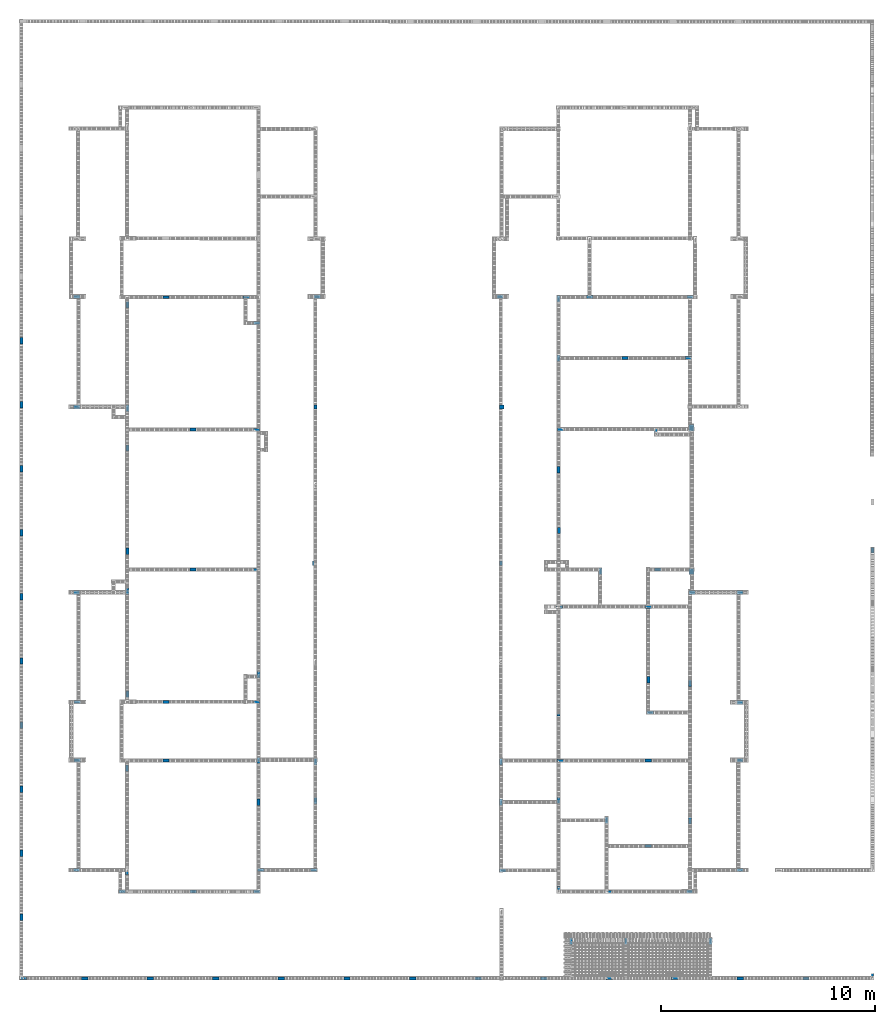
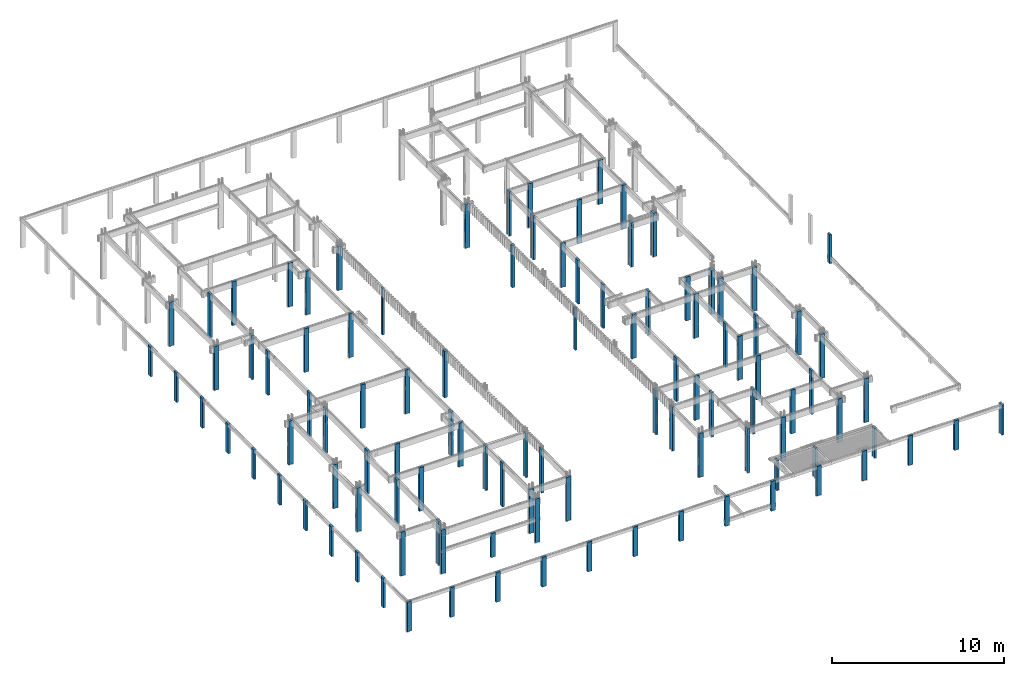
# One storey, part 1 of 236: 105 columns.
"""IFC4 building model written with IfcOpenShell, lengths in centimetres."""

from ifc_helpers import new_model, si_unit, derived_unit, frame, origin_with_axes, origin_2d_with_axis, place, context, project, spatial, rectangle, extrude, material, element, save


model = new_model("IFC4")

# Units and contexts
model_context = context("Model", 3, precision=1e-05, world=origin_with_axes(), identifier="Body")
ifc_project = project(units=[si_unit("LENGTHUNIT", "METRE", prefix="CENTI"), si_unit("VOLUMEUNIT", "CUBIC_METRE"), si_unit("AREAUNIT", "SQUARE_METRE"), si_unit("POWERUNIT", "WATT"), si_unit("LUMINOUSFLUXUNIT", "LUMEN"), si_unit("ELECTRICCURRENTUNIT", "AMPERE"), si_unit("PRESSUREUNIT", "PASCAL", prefix="KILO"), si_unit("MASSUNIT", "GRAM", prefix="KILO"), si_unit("PLANEANGLEUNIT", "RADIAN"), derived_unit("VOLUMETRICFLOWRATEUNIT", [(si_unit("LENGTHUNIT", "METRE"), 3), (si_unit("TIMEUNIT", "SECOND"), -1)])], contexts=[model_context])

# Site, building, storey
site_placement = place(None, frame((-4000.0, 0.0, 0.0), z_axis=(0.0, 0.0, 1.0), x_axis=(1.0, 0.0, 0.0)))
site = spatial("IfcSite", under=ifc_project, at=site_placement, Name="PADRÃO")
building_placement = place(site_placement, frame((0.0, 0.0, -14.0)))
building = spatial("IfcBuilding", under=site, at=building_placement, Name="CRECHE PRÉ-ESCOLA TIPO 2")
placement_1 = place(building_placement, origin_with_axes())
placement_2 = place(placement_1, frame((0.0, 0.0, 30.0), z_axis=(0.0, 0.0, 1.0), x_axis=(1.0, 0.0, 0.0)))
storey_placement = place(placement_2, frame((0.0, 0.0, 310.0), z_axis=(0.0, 0.0, 1.0), x_axis=(1.0, 0.0, 0.0)))
storey = spatial("IfcBuildingStorey", under=building, at=storey_placement, Name="TERREO", CompositionType="ELEMENT", Elevation=326.0)

# Columns
ifc_material = material(Name="Concreto")
column_1_placement = place(storey_placement, frame((8.5, 1494.5, -100.0), z_axis=(0.0, 0.0, 1.0), x_axis=(1.0, 0.0, 0.0)))
element("IfcColumn", 1, at=column_1_placement, inside=storey, material=ifc_material, Name="P101", context=model_context, shape_type="SolidModel", body=[
    extrude(rectangle(XDim=14.0, YDim=30.0, at=origin_2d_with_axis()), origin_with_axes(), (0.0, 0.0, -1.0), 210.0),
])
for number, where, z_axis, x_axis, name in (
    (2, (1118.72, 1430.5, 0.0), (0.0, 0.0, 1.0), (1.0, 0.0, 0.0), "P102"),
    (3, (2943.24, 1406.51, 0.0), (0.0, 0.0, 1.0), (1.0, 0.0, 0.0), "P104"),
):
    element("IfcColumn", number, at=place(storey_placement, frame(where, z_axis=z_axis, x_axis=x_axis)), inside=storey, material=ifc_material, Name=name, context=model_context, shape_type="SolidModel", body=[
        extrude(rectangle(XDim=14.0, YDim=30.0, at=origin_2d_with_axis()), origin_with_axes(), (0.0, 0.0, -1.0), 310.0),
    ])
column_2_placement = place(storey_placement, frame((3138.5, 1389.52, 0.0), z_axis=(0.0, 0.0, 1.0), x_axis=(1.0, 0.0, 0.0)))
element("IfcColumn", 4, at=column_2_placement, inside=storey, material=ifc_material, Name="P105", context=model_context, shape_type="SolidModel", body=[
    extrude(rectangle(XDim=14.0, YDim=30.0, at=origin_2d_with_axis()), frame((0.0, 0.0, 0.0), z_axis=(0.0, 0.0, 1.0), x_axis=(-1.0, 0.0, 0.0)), (0.0, 0.0, -1.0), 310.0),
])
column_3_placement = place(storey_placement, frame((269.5, 1301.5, 0.0), z_axis=(0.0, 0.0, 1.0), x_axis=(1.0, 0.0, 0.0)))
element("IfcColumn", 5, at=column_3_placement, inside=storey, material=ifc_material, Name="P106", context=model_context, shape_type="SolidModel", body=[
    extrude(rectangle(XDim=14.0, YDim=30.0, at=origin_2d_with_axis()), frame((0.0, 0.0, 0.0), z_axis=(0.0, 0.0, 1.0), x_axis=(0.0, -1.0, 0.0)), (0.0, 0.0, -1.0), 310.0),
])
column_4_placement = place(storey_placement, frame((503.69, 1338.51, 0.0), z_axis=(0.0, 0.0, 1.0), x_axis=(1.0, 0.0, 0.0)))
element("IfcColumn", 6, at=column_4_placement, inside=storey, material=ifc_material, Name="P107", context=model_context, shape_type="SolidModel", body=[
    extrude(rectangle(XDim=14.0, YDim=30.0, at=origin_2d_with_axis()), origin_with_axes(), (0.0, 0.0, -1.0), 310.0),
])
column_5_placement = place(storey_placement, frame((685.0, 1302.5, 0.0), z_axis=(0.0, 0.0, 1.0), x_axis=(1.0, 0.0, 0.0)))
element("IfcColumn", 7, at=column_5_placement, inside=storey, material=ifc_material, Name="P108", context=model_context, shape_type="SolidModel", body=[
    extrude(rectangle(XDim=14.0, YDim=30.0, at=origin_2d_with_axis()), frame((0.0, 0.0, 0.0), z_axis=(0.0, 0.0, 1.0), x_axis=(0.0, -1.0, 0.0)), (0.0, 0.0, -1.0), 310.0),
])
column_6_placement = place(storey_placement, frame((1109.72, 1302.5, 0.0), z_axis=(0.0, 0.0, 1.0), x_axis=(1.0, 0.0, 0.0)))
element("IfcColumn", 8, at=column_6_placement, inside=storey, material=ifc_material, Name="P109", context=model_context, shape_type="SolidModel", body=[
    extrude(rectangle(XDim=14.0, YDim=30.0, at=origin_2d_with_axis()), frame((0.0, 0.0, 0.0), z_axis=(0.0, 0.0, 1.0), x_axis=(0.0, 1.0, 0.0)), (0.0, 0.0, -1.0), 310.0),
])
column_7_placement = place(storey_placement, frame((2523.5, 1252.08, 0.0), z_axis=(0.0, 0.0, 1.0), x_axis=(1.0, 0.0, 0.0)))
element("IfcColumn", 9, at=column_7_placement, inside=storey, material=ifc_material, Name="P110", context=model_context, shape_type="SolidModel", body=[
    extrude(rectangle(XDim=14.0, YDim=30.0, at=origin_2d_with_axis()), origin_with_axes(), (0.0, 0.0, -1.0), 310.0),
])
column_8_placement = place(storey_placement, frame((2951.24, 1252.52, 0.0), z_axis=(0.0, 0.0, 1.0), x_axis=(1.0, 0.0, 0.0)))
element("IfcColumn", 10, at=column_8_placement, inside=storey, material=ifc_material, Name="P112", context=model_context, shape_type="SolidModel", body=[
    extrude(rectangle(XDim=14.0, YDim=30.0, at=origin_2d_with_axis()), frame((0.0, 0.0, 0.0), z_axis=(0.0, 0.0, 1.0), x_axis=(0.0, 1.0, 0.0)), (0.0, 0.0, -1.0), 310.0),
])
column_9_placement = place(storey_placement, frame((3372.5, 1300.09, 0.0), z_axis=(0.0, 0.0, 1.0), x_axis=(1.0, 0.0, 0.0)))
element("IfcColumn", 11, at=column_9_placement, inside=storey, material=ifc_material, Name="P113", context=model_context, shape_type="SolidModel", body=[
    extrude(rectangle(XDim=17.0, YDim=30.0, at=origin_2d_with_axis()), frame((0.0, 0.0, 0.0), z_axis=(0.0, 0.0, 1.0), x_axis=(0.0, -1.0, 0.0)), (0.0, 0.0, -1.0), 310.0),
])
column_10_placement = place(storey_placement, frame((8.5, 1194.5, -100.0), z_axis=(0.0, 0.0, 1.0), x_axis=(1.0, 0.0, 0.0)))
element("IfcColumn", 12, at=column_10_placement, inside=storey, material=ifc_material, Name="P114", context=model_context, shape_type="SolidModel", body=[
    extrude(rectangle(XDim=14.0, YDim=30.0, at=origin_2d_with_axis()), origin_with_axes(), (0.0, 0.0, -1.0), 210.0),
])
column_11_placement = place(storey_placement, frame((269.5, 1030.5, 0.0), z_axis=(0.0, 0.0, 1.0), x_axis=(1.0, 0.0, 0.0)))
element("IfcColumn", 13, at=column_11_placement, inside=storey, material=ifc_material, Name="P116", context=model_context, shape_type="SolidModel", body=[
    extrude(rectangle(XDim=17.0, YDim=30.0, at=origin_2d_with_axis()), frame((0.0, 0.0, 0.0), z_axis=(0.0, 0.0, 1.0), x_axis=(0.0, -1.0, 0.0)), (0.0, 0.0, -1.0), 310.0),
])
column_12_placement = place(storey_placement, frame((503.57, 991.51, 0.0), z_axis=(0.0, 0.0, 1.0), x_axis=(1.0, 0.0, 0.0)))
element("IfcColumn", 14, at=column_12_placement, inside=storey, material=ifc_material, Name="P117", context=model_context, shape_type="SolidModel", body=[
    extrude(rectangle(XDim=14.0, YDim=30.0, at=origin_2d_with_axis()), origin_with_axes(), (0.0, 0.0, -1.0), 310.0),
])
column_13_placement = place(storey_placement, frame((685.0, 1027.51, 0.0), z_axis=(0.0, 0.0, 1.0), x_axis=(1.0, 0.0, 0.0)))
element("IfcColumn", 15, at=column_13_placement, inside=storey, material=ifc_material, Name="P118", context=model_context, shape_type="SolidModel", body=[
    extrude(rectangle(XDim=14.0, YDim=30.0, at=origin_2d_with_axis()), frame((0.0, 0.0, 0.0), z_axis=(0.0, 0.0, 1.0), x_axis=(0.0, -1.0, 0.0)), (0.0, 0.0, -1.0), 310.0),
])
column_14_placement = place(storey_placement, frame((1118.72, 1028.5, 0.0), z_axis=(0.0, 0.0, 1.0), x_axis=(1.0, 0.0, 0.0)))
element("IfcColumn", 16, at=column_14_placement, inside=storey, material=ifc_material, Name="P119", context=model_context, shape_type="SolidModel", body=[
    extrude(rectangle(XDim=14.0, YDim=30.0, at=origin_2d_with_axis()), origin_with_axes(), (0.0, 0.0, -1.0), 310.0),
])
column_15_placement = place(storey_placement, frame((1384.84, 1023.51, 0.0), z_axis=(0.0, 0.0, 1.0), x_axis=(1.0, 0.0, 0.0)))
element("IfcColumn", 17, at=column_15_placement, inside=storey, material=ifc_material, Name="P120", context=model_context, shape_type="SolidModel", body=[
    extrude(rectangle(XDim=14.0, YDim=30.0, at=origin_2d_with_axis()), frame((0.0, 0.0, 0.0), z_axis=(0.0, 0.0, 1.0), x_axis=(-1.0, 0.0, 0.0)), (0.0, 0.0, -1.0), 310.0),
])
column_16_placement = place(storey_placement, frame((2254.49, 1023.51, 0.0), z_axis=(0.0, 0.0, 1.0), x_axis=(1.0, 0.0, 0.0)))
element("IfcColumn", 18, at=column_16_placement, inside=storey, material=ifc_material, Name="P121", context=model_context, shape_type="SolidModel", body=[
    extrude(rectangle(XDim=14.0, YDim=30.0, at=origin_2d_with_axis()), origin_with_axes(), (0.0, 0.0, -1.0), 310.0),
])
for number, where, z_axis, x_axis, name in (
    (19, (2531.5, 1027.52, 0.0), (0.0, 0.0, 1.0), (1.0, 0.0, 0.0), "P122"),
    (20, (2943.24, 1027.52, 0.0), (0.0, 0.0, 1.0), (1.0, 0.0, 0.0), "P123"),
):
    element("IfcColumn", number, at=place(storey_placement, frame(where, z_axis=z_axis, x_axis=x_axis)), inside=storey, material=ifc_material, Name=name, context=model_context, shape_type="SolidModel", body=[
        extrude(rectangle(XDim=14.0, YDim=30.0, at=origin_2d_with_axis()), frame((0.0, 0.0, 0.0), z_axis=(0.0, 0.0, 1.0), x_axis=(0.0, 1.0, 0.0)), (0.0, 0.0, -1.0), 310.0),
    ])
column_17_placement = place(storey_placement, frame((3372.5, 1030.08, 0.0), z_axis=(0.0, 0.0, 1.0), x_axis=(1.0, 0.0, 0.0)))
element("IfcColumn", 21, at=column_17_placement, inside=storey, material=ifc_material, Name="P124", context=model_context, shape_type="SolidModel", body=[
    extrude(rectangle(XDim=17.0, YDim=30.0, at=origin_2d_with_axis()), frame((0.0, 0.0, 0.0), z_axis=(0.0, 0.0, 1.0), x_axis=(0.0, -1.0, 0.0)), (0.0, 0.0, -1.0), 310.0),
])
column_18_placement = place(storey_placement, frame((8.5, 894.5, -100.0), z_axis=(0.0, 0.0, 1.0), x_axis=(1.0, 0.0, 0.0)))
element("IfcColumn", 22, at=column_18_placement, inside=storey, material=ifc_material, Name="P125", context=model_context, shape_type="SolidModel", body=[
    extrude(rectangle(XDim=14.0, YDim=30.0, at=origin_2d_with_axis()), origin_with_axes(), (0.0, 0.0, -1.0), 210.0),
])
for number, where, z_axis, x_axis, name in (
    (23, (1118.72, 833.5, 0.0), (0.0, 0.0, 1.0), (1.0, 0.0, 0.0), "P126"),
    (24, (1384.84, 841.1, 0.0), (0.0, 0.0, 1.0), (1.0, 0.0, 0.0), "P127"),
    (25, (2254.49, 832.52, 0.0), (0.0, 0.0, 1.0), (1.0, 0.0, 0.0), "P128"),
    (26, (2523.5, 841.52, 0.0), (0.0, 0.0, 1.0), (1.0, 0.0, 0.0), "P129"),
    (27, (2747.52, 749.08, 0.0), (0.0, 0.0, 1.0), (1.0, 0.0, 0.0), "P131"),
    (28, (3138.5, 746.58, 0.0), (0.0, 0.0, 1.0), (1.0, 0.0, 0.0), "P132"),
):
    element("IfcColumn", number, at=place(storey_placement, frame(where, z_axis=z_axis, x_axis=x_axis)), inside=storey, material=ifc_material, Name=name, context=model_context, shape_type="SolidModel", body=[
        extrude(rectangle(XDim=14.0, YDim=30.0, at=origin_2d_with_axis()), origin_with_axes(), (0.0, 0.0, -1.0), 310.0),
    ])
column_19_placement = place(storey_placement, frame((8.5, 594.5, -100.0), z_axis=(0.0, 0.0, 1.0), x_axis=(1.0, 0.0, 0.0)))
element("IfcColumn", 29, at=column_19_placement, inside=storey, material=ifc_material, Name="P133", context=model_context, shape_type="SolidModel", body=[
    extrude(rectangle(XDim=14.0, YDim=30.0, at=origin_2d_with_axis()), origin_with_axes(), (0.0, 0.0, -1.0), 210.0),
])
column_20_placement = place(storey_placement, frame((2943.45, 627.58, 0.0), z_axis=(0.0, 0.0, 1.0), x_axis=(1.0, 0.0, 0.0)))
element("IfcColumn", 30, at=column_20_placement, inside=storey, material=ifc_material, Name="P134", context=model_context, shape_type="SolidModel", body=[
    extrude(rectangle(XDim=14.0, YDim=30.0, at=origin_2d_with_axis()), frame((0.0, 0.0, 0.0), z_axis=(0.0, 0.0, 1.0), x_axis=(0.0, 1.0, 0.0)), (0.0, 0.0, -1.0), 310.0),
])
column_21_placement = place(storey_placement, frame((266.0, 515.0, 0.0), z_axis=(0.0, 0.0, 1.0), x_axis=(1.0, 0.0, 0.0)))
element("IfcColumn", 31, at=column_21_placement, inside=storey, material=ifc_material, Name="P135", context=model_context, shape_type="SolidModel", body=[
    extrude(rectangle(XDim=14.0, YDim=30.0, at=origin_2d_with_axis()), frame((0.0, 0.0, 0.0), z_axis=(0.0, 0.0, 1.0), x_axis=(0.0, -1.0, 0.0)), (0.0, 0.0, -1.0), 310.0),
])
column_22_placement = place(storey_placement, frame((503.57, 508.51, 0.0), z_axis=(0.0, 0.0, 1.0), x_axis=(1.0, 0.0, 0.0)))
element("IfcColumn", 32, at=column_22_placement, inside=storey, material=ifc_material, Name="P136", context=model_context, shape_type="SolidModel", body=[
    extrude(rectangle(XDim=14.0, YDim=30.0, at=origin_2d_with_axis()), origin_with_axes(), (0.0, 0.0, -1.0), 310.0),
])
for number, where, z_axis, x_axis, name in (
    (33, (1127.72, 515.01, 0.0), (0.0, 0.0, 1.0), (1.0, 0.0, 0.0), "P137"),
    (34, (1376.84, 515.01, 0.0), (0.0, 0.0, 1.0), (1.0, 0.0, 0.0), "P138"),
):
    element("IfcColumn", number, at=place(storey_placement, frame(where, z_axis=z_axis, x_axis=x_axis)), inside=storey, material=ifc_material, Name=name, context=model_context, shape_type="SolidModel", body=[
        extrude(rectangle(XDim=14.0, YDim=30.0, at=origin_2d_with_axis()), frame((0.0, 0.0, 0.0), z_axis=(0.0, 0.0, 1.0), x_axis=(0.0, -1.0, 0.0)), (0.0, 0.0, -1.0), 310.0),
    ])
for number, where, z_axis, x_axis, name in (
    (35, (2262.48, 513.52, 0.0), (0.0, 0.0, 1.0), (1.0, 0.0, 0.0), "P139"),
    (36, (3372.5, 515.01, 0.0), (0.0, 0.0, 1.0), (1.0, 0.0, 0.0), "P140"),
):
    element("IfcColumn", number, at=place(storey_placement, frame(where, z_axis=z_axis, x_axis=x_axis)), inside=storey, material=ifc_material, Name=name, context=model_context, shape_type="SolidModel", body=[
        extrude(rectangle(XDim=14.0, YDim=30.0, at=origin_2d_with_axis()), frame((0.0, 0.0, 0.0), z_axis=(0.0, 0.0, 1.0), x_axis=(0.0, 1.0, 0.0)), (0.0, 0.0, -1.0), 310.0),
    ])
column_23_placement = place(storey_placement, frame((480.0, 416.0, 0.0), z_axis=(0.0, 0.0, 1.0), x_axis=(1.0, 0.0, 0.0)))
element("IfcColumn", 37, at=column_23_placement, inside=storey, material=ifc_material, Name="P143", context=model_context, shape_type="SolidModel", body=[
    extrude(rectangle(XDim=14.0, YDim=30.0, at=origin_2d_with_axis()), frame((0.0, 0.0, 0.0), z_axis=(0.0, 0.0, 1.0), x_axis=(0.0, -1.0, 0.0)), (0.0, 0.0, -1.0), 310.0),
])
column_24_placement = place(storey_placement, frame((811.79, 415.0, -140.0), z_axis=(0.0, 0.0, 1.0), x_axis=(1.0, 0.0, 0.0)))
element("IfcColumn", 38, at=column_24_placement, inside=storey, material=ifc_material, Name="P144", context=model_context, shape_type="SolidModel", body=[
    extrude(rectangle(XDim=14.0, YDim=30.0, at=origin_2d_with_axis()), frame((0.0, 0.0, 0.0), z_axis=(0.0, 0.0, 1.0), x_axis=(0.0, -1.0, 0.0)), (0.0, 0.0, -1.0), 170.0),
])
column_25_placement = place(storey_placement, frame((1110.72, 415.01, 0.0), z_axis=(0.0, 0.0, 1.0), x_axis=(1.0, 0.0, 0.0)))
element("IfcColumn", 39, at=column_25_placement, inside=storey, material=ifc_material, Name="P145", context=model_context, shape_type="SolidModel", body=[
    extrude(rectangle(XDim=14.0, YDim=30.0, at=origin_2d_with_axis()), frame((0.0, 0.0, 0.0), z_axis=(0.0, 0.0, 1.0), x_axis=(0.0, -1.0, 0.0)), (0.0, 0.0, -1.0), 310.0),
])
column_26_placement = place(storey_placement, frame((2523.5, 423.02, 0.0), z_axis=(0.0, 0.0, 1.0), x_axis=(1.0, 0.0, 0.0)))
element("IfcColumn", 40, at=column_26_placement, inside=storey, material=ifc_material, Name="P146", context=model_context, shape_type="SolidModel", body=[
    extrude(rectangle(XDim=14.0, YDim=30.0, at=origin_2d_with_axis()), origin_with_axes(), (0.0, 0.0, -1.0), 310.0),
])
for number, where, z_axis, x_axis, name in (
    (41, (2756.46, 415.01, 0.0), (0.0, 0.0, 1.0), (1.0, 0.0, 0.0), "P147"),
    (42, (3136.0, 415.01, 0.0), (0.0, 0.0, 1.0), (1.0, 0.0, 0.0), "P148"),
):
    element("IfcColumn", number, at=place(storey_placement, frame(where, z_axis=z_axis, x_axis=x_axis)), inside=storey, material=ifc_material, Name=name, context=model_context, shape_type="SolidModel", body=[
        extrude(rectangle(XDim=14.0, YDim=30.0, at=origin_2d_with_axis()), frame((0.0, 0.0, 0.0), z_axis=(0.0, 0.0, 1.0), x_axis=(0.0, 1.0, 0.0)), (0.0, 0.0, -1.0), 310.0),
    ])
column_27_placement = place(storey_placement, frame((8.5, 294.5, -100.0), z_axis=(0.0, 0.0, 1.0), x_axis=(1.0, 0.0, 0.0)))
element("IfcColumn", 43, at=column_27_placement, inside=storey, material=ifc_material, Name="P149", context=model_context, shape_type="SolidModel", body=[
    extrude(rectangle(XDim=14.0, YDim=30.0, at=origin_2d_with_axis()), origin_with_axes(), (0.0, 0.0, -1.0), 210.0),
])
for number, where, z_axis, x_axis, name in (
    (44, (2581.46, 182.5, -100.0), (0.0, 0.0, 1.0), (1.0, 0.0, 0.0), "P152"),
    (45, (2837.49, 182.5, -100.0), (0.0, 0.0, 1.0), (1.0, 0.0, 0.0), "P153"),
):
    element("IfcColumn", number, at=place(storey_placement, frame(where, z_axis=z_axis, x_axis=x_axis)), inside=storey, material=ifc_material, Name=name, context=model_context, shape_type="SolidModel", body=[
        extrude(rectangle(XDim=14.0, YDim=30.0, at=origin_2d_with_axis()), frame((0.0, 0.0, 0.0), z_axis=(0.0, 0.0, 1.0), x_axis=(-1.0, 0.0, 0.0)), (0.0, 0.0, -1.0), 210.0),
    ])
column_28_placement = place(storey_placement, frame((3233.99, 182.5, -100.0), z_axis=(0.0, 0.0, 1.0), x_axis=(1.0, 0.0, 0.0)))
element("IfcColumn", 46, at=column_28_placement, inside=storey, material=ifc_material, Name="P154", context=model_context, shape_type="SolidModel", body=[
    extrude(rectangle(XDim=14.0, YDim=30.0, at=origin_2d_with_axis()), origin_with_axes(), (0.0, 0.0, -1.0), 210.0),
])
for number, where, z_axis, x_axis, name in (
    (47, (16.5, 9.0, -100.0), (0.0, 0.0, 1.0), (1.0, 0.0, 0.0), "P155"),
    (48, (304.5, 9.01, -100.0), (0.0, 0.0, 1.0), (1.0, 0.0, 0.0), "P156"),
    (49, (611.5, 9.0, -100.0), (0.0, 0.0, 1.0), (1.0, 0.0, 0.0), "P157"),
    (50, (918.5, 9.0, -100.0), (0.0, 0.0, 1.0), (1.0, 0.0, 0.0), "P158"),
    (51, (1225.5, 9.0, -100.0), (0.0, 0.0, 1.0), (1.0, 0.0, 0.0), "P159"),
    (52, (1532.5, 9.0, -100.0), (0.0, 0.0, 1.0), (1.0, 0.0, 0.0), "P160"),
    (53, (1839.5, 9.0, -100.0), (0.0, 0.0, 1.0), (1.0, 0.0, 0.0), "P161"),
    (54, (2146.5, 9.0, -100.0), (0.0, 0.0, 1.0), (1.0, 0.0, 0.0), "P162"),
    (55, (2453.5, 9.0, -100.0), (0.0, 0.0, 1.0), (1.0, 0.0, 0.0), "P163"),
    (56, (2760.5, 9.0, -100.0), (0.0, 0.0, 1.0), (1.0, 0.0, 0.0), "P164"),
    (57, (3067.5, 9.0, -100.0), (0.0, 0.0, 1.0), (1.0, 0.0, 0.0), "P165"),
    (58, (3374.5, 9.0, -100.0), (0.0, 0.0, 1.0), (1.0, 0.0, 0.0), "P166"),
    (59, (3681.5, 9.0, -100.0), (0.0, 0.0, 1.0), (1.0, 0.0, 0.0), "P167"),
):
    element("IfcColumn", number, at=place(storey_placement, frame(where, z_axis=z_axis, x_axis=x_axis)), inside=storey, material=ifc_material, Name=name, context=model_context, shape_type="SolidModel", body=[
        extrude(rectangle(XDim=14.0, YDim=30.0, at=origin_2d_with_axis()), frame((0.0, 0.0, 0.0), z_axis=(0.0, 0.0, 1.0), x_axis=(0.0, 1.0, 0.0)), (0.0, 0.0, -1.0), 210.0),
    ])
column_29_placement = place(storey_placement, frame((3992.0, 17.0, -100.0), z_axis=(0.0, 0.0, 1.0), x_axis=(1.0, 0.0, 0.0)))
element("IfcColumn", 60, at=column_29_placement, inside=storey, material=ifc_material, Name="P168", context=model_context, shape_type="SolidModel", body=[
    extrude(rectangle(XDim=14.0, YDim=30.0, at=origin_2d_with_axis()), frame((0.0, 0.0, 0.0), z_axis=(0.0, 0.0, 1.0), x_axis=(-1.0, 0.0, 0.0)), (0.0, 0.0, -1.0), 210.0),
])
column_30_placement = place(storey_placement, frame((267.0, 3200.5, 0.0), z_axis=(0.0, 0.0, 1.0), x_axis=(1.0, 0.0, 0.0)))
element("IfcColumn", 61, at=column_30_placement, inside=storey, material=ifc_material, Name="P47", context=model_context, shape_type="SolidModel", body=[
    extrude(rectangle(XDim=17.0, YDim=30.0, at=origin_2d_with_axis()), frame((0.0, 0.0, 0.0), z_axis=(0.0, 0.0, 1.0), x_axis=(0.0, -1.0, 0.0)), (0.0, 0.0, -1.0), 310.0),
])
column_31_placement = place(storey_placement, frame((503.69, 3161.5, 0.0), z_axis=(0.0, 0.0, 1.0), x_axis=(1.0, 0.0, 0.0)))
element("IfcColumn", 62, at=column_31_placement, inside=storey, material=ifc_material, Name="P48", context=model_context, shape_type="SolidModel", body=[
    extrude(rectangle(XDim=14.0, YDim=30.0, at=origin_2d_with_axis()), origin_with_axes(), (0.0, 0.0, -1.0), 310.0),
])
for number, where, z_axis, x_axis, name in (
    (63, (685.0, 3197.49, 0.0), (0.0, 0.0, 1.0), (1.0, 0.0, 0.0), "P49"),
    (64, (1061.0, 3197.49, 0.0), (0.0, 0.0, 1.0), (1.0, 0.0, 0.0), "P50"),
):
    element("IfcColumn", number, at=place(storey_placement, frame(where, z_axis=z_axis, x_axis=x_axis)), inside=storey, material=ifc_material, Name=name, context=model_context, shape_type="SolidModel", body=[
        extrude(rectangle(XDim=14.0, YDim=30.0, at=origin_2d_with_axis()), frame((0.0, 0.0, 0.0), z_axis=(0.0, 0.0, 1.0), x_axis=(0.0, -1.0, 0.0)), (0.0, 0.0, -1.0), 310.0),
    ])
for number, where, z_axis, x_axis, name in (
    (65, (1393.25, 3200.02, 0.0), (0.0, 0.0, 1.0), (1.0, 0.0, 0.0), "P51"),
    (66, (2248.76, 3200.02, 0.0), (0.0, 0.0, 1.0), (1.0, 0.0, 0.0), "P52"),
):
    element("IfcColumn", number, at=place(storey_placement, frame(where, z_axis=z_axis, x_axis=x_axis)), inside=storey, material=ifc_material, Name=name, context=model_context, shape_type="SolidModel", body=[
        extrude(rectangle(XDim=17.0, YDim=30.0, at=origin_2d_with_axis()), frame((0.0, 0.0, 0.0), z_axis=(0.0, 0.0, 1.0), x_axis=(0.0, -1.0, 0.0)), (0.0, 0.0, -1.0), 310.0),
    ])
column_32_placement = place(storey_placement, frame((2523.5, 3189.52, 0.0), z_axis=(0.0, 0.0, 1.0), x_axis=(1.0, 0.0, 0.0)))
element("IfcColumn", 67, at=column_32_placement, inside=storey, material=ifc_material, Name="P53", context=model_context, shape_type="SolidModel", body=[
    extrude(rectangle(XDim=14.0, YDim=30.0, at=origin_2d_with_axis()), origin_with_axes(), (0.0, 0.0, -1.0), 310.0),
])
for number, where, z_axis, x_axis, name in (
    (68, (2668.0, 3197.52, 0.0), (0.0, 0.0, 1.0), (1.0, 0.0, 0.0), "P54"),
    (69, (3138.5, 3197.52, 0.0), (0.0, 0.0, 1.0), (1.0, 0.0, 0.0), "P55"),
):
    element("IfcColumn", number, at=place(storey_placement, frame(where, z_axis=z_axis, x_axis=x_axis)), inside=storey, material=ifc_material, Name=name, context=model_context, shape_type="SolidModel", body=[
        extrude(rectangle(XDim=14.0, YDim=30.0, at=origin_2d_with_axis()), frame((0.0, 0.0, 0.0), z_axis=(0.0, 0.0, 1.0), x_axis=(0.0, -1.0, 0.0)), (0.0, 0.0, -1.0), 310.0),
    ])
column_33_placement = place(storey_placement, frame((1109.72, 3076.5, 0.0), z_axis=(0.0, 0.0, 1.0), x_axis=(1.0, 0.0, 0.0)))
element("IfcColumn", 70, at=column_33_placement, inside=storey, material=ifc_material, Name="P58", context=model_context, shape_type="SolidModel", body=[
    extrude(rectangle(XDim=14.0, YDim=30.0, at=origin_2d_with_axis()), frame((0.0, 0.0, 0.0), z_axis=(0.0, 0.0, 1.0), x_axis=(0.0, 1.0, 0.0)), (0.0, 0.0, -1.0), 310.0),
])
column_34_placement = place(storey_placement, frame((8.5, 2994.5, -100.0), z_axis=(0.0, 0.0, 1.0), x_axis=(1.0, 0.0, 0.0)))
element("IfcColumn", 71, at=column_34_placement, inside=storey, material=ifc_material, Name="P59", context=model_context, shape_type="SolidModel", body=[
    extrude(rectangle(XDim=14.0, YDim=30.0, at=origin_2d_with_axis()), origin_with_axes(), (0.0, 0.0, -1.0), 210.0),
])
column_35_placement = place(storey_placement, frame((2523.5, 2911.02, 0.0), z_axis=(0.0, 0.0, 1.0), x_axis=(1.0, 0.0, 0.0)))
element("IfcColumn", 72, at=column_35_placement, inside=storey, material=ifc_material, Name="P60", context=model_context, shape_type="SolidModel", body=[
    extrude(rectangle(XDim=14.0, YDim=30.0, at=origin_2d_with_axis()), origin_with_axes(), (0.0, 0.0, -1.0), 310.0),
])
for number, where, z_axis, x_axis, name in (
    (73, (2834.0, 2912.52, 0.0), (0.0, 0.0, 1.0), (1.0, 0.0, 0.0), "P61"),
    (74, (3130.5, 2912.52, 0.0), (0.0, 0.0, 1.0), (1.0, 0.0, 0.0), "P62"),
):
    element("IfcColumn", number, at=place(storey_placement, frame(where, z_axis=z_axis, x_axis=x_axis)), inside=storey, material=ifc_material, Name=name, context=model_context, shape_type="SolidModel", body=[
        extrude(rectangle(XDim=14.0, YDim=30.0, at=origin_2d_with_axis()), frame((0.0, 0.0, 0.0), z_axis=(0.0, 0.0, 1.0), x_axis=(0.0, -1.0, 0.0)), (0.0, 0.0, -1.0), 310.0),
    ])
column_36_placement = place(storey_placement, frame((8.5, 2694.5, -100.0), z_axis=(0.0, 0.0, 1.0), x_axis=(1.0, 0.0, 0.0)))
element("IfcColumn", 75, at=column_36_placement, inside=storey, material=ifc_material, Name="P64", context=model_context, shape_type="SolidModel", body=[
    extrude(rectangle(XDim=14.0, YDim=30.0, at=origin_2d_with_axis()), origin_with_axes(), (0.0, 0.0, -1.0), 210.0),
])
column_37_placement = place(storey_placement, frame((268.0, 2683.51, 0.0), z_axis=(0.0, 0.0, 1.0), x_axis=(1.0, 0.0, 0.0)))
element("IfcColumn", 76, at=column_37_placement, inside=storey, material=ifc_material, Name="P65", context=model_context, shape_type="SolidModel", body=[
    extrude(rectangle(XDim=17.0, YDim=30.0, at=origin_2d_with_axis()), frame((0.0, 0.0, 0.0), z_axis=(0.0, 0.0, 1.0), x_axis=(0.0, -1.0, 0.0)), (0.0, 0.0, -1.0), 310.0),
])
column_38_placement = place(storey_placement, frame((503.69, 2677.01, 0.0), z_axis=(0.0, 0.0, 1.0), x_axis=(1.0, 0.0, 0.0)))
element("IfcColumn", 77, at=column_38_placement, inside=storey, material=ifc_material, Name="P66", context=model_context, shape_type="SolidModel", body=[
    extrude(rectangle(XDim=14.0, YDim=30.0, at=origin_2d_with_axis()), origin_with_axes(), (0.0, 0.0, -1.0), 310.0),
])
column_39_placement = place(storey_placement, frame((1385.25, 2683.51, 20.0), z_axis=(0.0, 0.0, 1.0), x_axis=(1.0, 0.0, 0.0)))
element("IfcColumn", 78, at=column_39_placement, inside=storey, material=ifc_material, Name="P67", context=model_context, shape_type="SolidModel", body=[
    extrude(rectangle(XDim=14.0, YDim=20.0, at=origin_2d_with_axis()), frame((0.0, 0.0, 0.0), z_axis=(0.0, 0.0, 1.0), x_axis=(-1.0, 0.0, 0.0)), (0.0, 0.0, -1.0), 330.0),
])
column_40_placement = place(storey_placement, frame((2256.49, 2683.51, 20.0), z_axis=(0.0, 0.0, 1.0), x_axis=(1.0, 0.0, 0.0)))
element("IfcColumn", 79, at=column_40_placement, inside=storey, material=ifc_material, Name="P68", context=model_context, shape_type="SolidModel", body=[
    extrude(rectangle(XDim=20.0, YDim=20.0, at=origin_2d_with_axis()), frame((0.0, 0.0, 0.0), z_axis=(0.0, 0.0, 1.0), x_axis=(-1.0, 0.0, 0.0)), (0.0, 0.0, -1.0), 300.0),
])
column_41_placement = place(storey_placement, frame((811.39, 2577.5, 0.0), z_axis=(0.0, 0.0, 1.0), x_axis=(1.0, 0.0, 0.0)))
element("IfcColumn", 80, at=column_41_placement, inside=storey, material=ifc_material, Name="P70", context=model_context, shape_type="SolidModel", body=[
    extrude(rectangle(XDim=14.0, YDim=30.0, at=origin_2d_with_axis()), frame((0.0, 0.0, 0.0), z_axis=(0.0, 0.0, 1.0), x_axis=(0.0, -1.0, 0.0)), (0.0, 0.0, -1.0), 310.0),
])
column_42_placement = place(storey_placement, frame((1109.72, 2577.5, 0.0), z_axis=(0.0, 0.0, 1.0), x_axis=(1.0, 0.0, 0.0)))
element("IfcColumn", 81, at=column_42_placement, inside=storey, material=ifc_material, Name="P71", context=model_context, shape_type="SolidModel", body=[
    extrude(rectangle(XDim=14.0, YDim=30.0, at=origin_2d_with_axis()), frame((0.0, 0.0, 0.0), z_axis=(0.0, 0.0, 1.0), x_axis=(0.0, 1.0, 0.0)), (0.0, 0.0, -1.0), 310.0),
])
column_43_placement = place(storey_placement, frame((2531.5, 2578.52, 0.0), z_axis=(0.0, 0.0, 1.0), x_axis=(1.0, 0.0, 0.0)))
element("IfcColumn", 82, at=column_43_placement, inside=storey, material=ifc_material, Name="P72", context=model_context, shape_type="SolidModel", body=[
    extrude(rectangle(XDim=14.0, YDim=30.0, at=origin_2d_with_axis()), frame((0.0, 0.0, 0.0), z_axis=(0.0, 0.0, 1.0), x_axis=(0.0, -1.0, 0.0)), (0.0, 0.0, -1.0), 310.0),
])
column_44_placement = place(storey_placement, frame((2979.5, 2566.02, 0.0), z_axis=(0.0, 0.0, 1.0), x_axis=(1.0, 0.0, 0.0)))
element("IfcColumn", 83, at=column_44_placement, inside=storey, material=ifc_material, Name="P73", context=model_context, shape_type="SolidModel", body=[
    extrude(rectangle(XDim=14.0, YDim=35.0, at=origin_2d_with_axis()), origin_with_axes(), (0.0, 0.0, -1.0), 310.0),
])
column_45_placement = place(storey_placement, frame((3145.02, 2586.52, 0.0), z_axis=(0.0, 0.0, 1.0), x_axis=(1.0, 0.0, 0.0)))
element("IfcColumn", 84, at=column_45_placement, inside=storey, material=ifc_material, Name="P74", context=model_context, shape_type="SolidModel", body=[
    extrude(rectangle(XDim=24.0, YDim=30.0, at=origin_2d_with_axis()), origin_with_axes(), (0.0, 0.0, -1.0), 310.0),
])
column_46_placement = place(storey_placement, frame((503.69, 2491.5, 0.0), z_axis=(0.0, 0.0, 1.0), x_axis=(1.0, 0.0, 0.0)))
element("IfcColumn", 85, at=column_46_placement, inside=storey, material=ifc_material, Name="P75", context=model_context, shape_type="SolidModel", body=[
    extrude(rectangle(XDim=14.0, YDim=30.0, at=origin_2d_with_axis()), origin_with_axes(), (0.0, 0.0, -1.0), 310.0),
])
column_47_placement = place(storey_placement, frame((8.5, 2394.5, -100.0), z_axis=(0.0, 0.0, 1.0), x_axis=(1.0, 0.0, 0.0)))
element("IfcColumn", 86, at=column_47_placement, inside=storey, material=ifc_material, Name="P77", context=model_context, shape_type="SolidModel", body=[
    extrude(rectangle(XDim=14.0, YDim=30.0, at=origin_2d_with_axis()), origin_with_axes(), (0.0, 0.0, -1.0), 210.0),
])
column_48_placement = place(storey_placement, frame((2523.5, 2390.27, 0.0), z_axis=(0.0, 0.0, 1.0), x_axis=(1.0, 0.0, 0.0)))
element("IfcColumn", 87, at=column_48_placement, inside=storey, material=ifc_material, Name="P78", context=model_context, shape_type="SolidModel", body=[
    extrude(rectangle(XDim=14.0, YDim=30.0, at=origin_2d_with_axis()), origin_with_axes(), (0.0, 0.0, -1.0), 310.0),
])
column_49_placement = place(storey_placement, frame((8.5, 2094.5, -100.0), z_axis=(0.0, 0.0, 1.0), x_axis=(1.0, 0.0, 0.0)))
element("IfcColumn", 88, at=column_49_placement, inside=storey, material=ifc_material, Name="P82", context=model_context, shape_type="SolidModel", body=[
    extrude(rectangle(XDim=14.0, YDim=30.0, at=origin_2d_with_axis()), origin_with_axes(), (0.0, 0.0, -1.0), 210.0),
])
for number, where, z_axis, x_axis, name in (
    (89, (2524.49, 2105.52, 0.0), (0.0, 0.0, 1.0), (1.0, 0.0, 0.0), "P83"),
    (90, (503.69, 2008.5, 0.0), (0.0, 0.0, 1.0), (1.0, 0.0, 0.0), "P84"),
):
    element("IfcColumn", number, at=place(storey_placement, frame(where, z_axis=z_axis, x_axis=x_axis)), inside=storey, material=ifc_material, Name=name, context=model_context, shape_type="SolidModel", body=[
        extrude(rectangle(XDim=14.0, YDim=30.0, at=origin_2d_with_axis()), origin_with_axes(), (0.0, 0.0, -1.0), 310.0),
    ])
column_50_placement = place(storey_placement, frame((3992.0, 2012.61, -105.0), z_axis=(0.0, 0.0, 1.0), x_axis=(1.0, 0.0, 0.0)))
element("IfcColumn", 91, at=column_50_placement, inside=storey, material=ifc_material, Name="P85", context=model_context, shape_type="SolidModel", body=[
    extrude(rectangle(XDim=14.0, YDim=25.0, at=origin_2d_with_axis()), frame((0.0, 0.0, 0.0), z_axis=(0.0, 0.0, 1.0), x_axis=(-1.0, 0.0, 0.0)), (0.0, 0.0, -1.0), 205.0),
])
for number, where, z_axis, x_axis, name in (
    (92, (811.39, 1922.5, 0.0), (0.0, 0.0, 1.0), (1.0, 0.0, 0.0), "P86"),
    (93, (1109.72, 1922.5, 0.0), (0.0, 0.0, 1.0), (1.0, 0.0, 0.0), "P87"),
):
    element("IfcColumn", number, at=place(storey_placement, frame(where, z_axis=z_axis, x_axis=x_axis)), inside=storey, material=ifc_material, Name=name, context=model_context, shape_type="SolidModel", body=[
        extrude(rectangle(XDim=14.0, YDim=30.0, at=origin_2d_with_axis()), frame((0.0, 0.0, 0.0), z_axis=(0.0, 0.0, 1.0), x_axis=(0.0, -1.0, 0.0)), (0.0, 0.0, -1.0), 310.0),
    ])
column_51_placement = place(storey_placement, frame((1380.84, 1952.5, 20.0), z_axis=(0.0, 0.0, 1.0), x_axis=(1.0, 0.0, 0.0)))
element("IfcColumn", 94, at=column_51_placement, inside=storey, material=ifc_material, Name="P88", context=model_context, shape_type="SolidModel", body=[
    extrude(rectangle(XDim=20.0, YDim=20.0, at=origin_2d_with_axis()), origin_with_axes(), (0.0, 0.0, -1.0), 330.0),
])
column_52_placement = place(storey_placement, frame((2253.49, 1952.5, 20.0), z_axis=(0.0, 0.0, 1.0), x_axis=(1.0, 0.0, 0.0)))
element("IfcColumn", 95, at=column_52_placement, inside=storey, material=ifc_material, Name="P89", context=model_context, shape_type="SolidModel", body=[
    extrude(rectangle(XDim=14.0, YDim=20.0, at=origin_2d_with_axis()), frame((0.0, 0.0, 0.0), z_axis=(0.0, 0.0, 1.0), x_axis=(-1.0, 0.0, 0.0)), (0.0, 0.0, -1.0), 300.0),
])
column_53_placement = place(storey_placement, frame((2718.75, 1914.52, 0.0), z_axis=(0.0, 0.0, 1.0), x_axis=(1.0, 0.0, 0.0)))
element("IfcColumn", 96, at=column_53_placement, inside=storey, material=ifc_material, Name="P90", context=model_context, shape_type="SolidModel", body=[
    extrude(rectangle(XDim=14.0, YDim=30.0, at=origin_2d_with_axis()), origin_with_axes(), (0.0, 0.0, -1.0), 310.0),
])
column_54_placement = place(storey_placement, frame((2987.5, 1922.52, 0.0), z_axis=(0.0, 0.0, 1.0), x_axis=(1.0, 0.0, 0.0)))
element("IfcColumn", 97, at=column_54_placement, inside=storey, material=ifc_material, Name="P91", context=model_context, shape_type="SolidModel", body=[
    extrude(rectangle(XDim=14.0, YDim=30.0, at=origin_2d_with_axis()), frame((0.0, 0.0, 0.0), z_axis=(0.0, 0.0, 1.0), x_axis=(0.0, 1.0, 0.0)), (0.0, 0.0, -1.0), 310.0),
])
column_55_placement = place(storey_placement, frame((3145.02, 1913.52, 0.0), z_axis=(0.0, 0.0, 1.0), x_axis=(1.0, 0.0, 0.0)))
element("IfcColumn", 98, at=column_55_placement, inside=storey, material=ifc_material, Name="P92", context=model_context, shape_type="SolidModel", body=[
    extrude(rectangle(XDim=24.0, YDim=30.0, at=origin_2d_with_axis()), origin_with_axes(), (0.0, 0.0, -1.0), 310.0),
])
column_56_placement = place(storey_placement, frame((8.5, 1794.5, -100.0), z_axis=(0.0, 0.0, 1.0), x_axis=(1.0, 0.0, 0.0)))
element("IfcColumn", 99, at=column_56_placement, inside=storey, material=ifc_material, Name="P93", context=model_context, shape_type="SolidModel", body=[
    extrude(rectangle(XDim=14.0, YDim=30.0, at=origin_2d_with_axis()), origin_with_axes(), (0.0, 0.0, -1.0), 210.0),
])
column_57_placement = place(storey_placement, frame((266.0, 1815.0, 0.0), z_axis=(0.0, 0.0, 1.0), x_axis=(1.0, 0.0, 0.0)))
element("IfcColumn", 100, at=column_57_placement, inside=storey, material=ifc_material, Name="P94", context=model_context, shape_type="SolidModel", body=[
    extrude(rectangle(XDim=17.0, YDim=30.0, at=origin_2d_with_axis()), frame((0.0, 0.0, 0.0), z_axis=(0.0, 0.0, 1.0), x_axis=(0.0, -1.0, 0.0)), (0.0, 0.0, -1.0), 310.0),
])
column_58_placement = place(storey_placement, frame((503.69, 1821.5, 0.0), z_axis=(0.0, 0.0, 1.0), x_axis=(1.0, 0.0, 0.0)))
element("IfcColumn", 101, at=column_58_placement, inside=storey, material=ifc_material, Name="P95", context=model_context, shape_type="SolidModel", body=[
    extrude(rectangle(XDim=14.0, YDim=30.0, at=origin_2d_with_axis()), origin_with_axes(), (0.0, 0.0, -1.0), 310.0),
])
for number, where, z_axis, x_axis, name in (
    (102, (3147.5, 1815.02, 0.0), (0.0, 0.0, 1.0), (1.0, 0.0, 0.0), "P96"),
    (103, (3372.5, 1815.02, 0.0), (0.0, 0.0, 1.0), (1.0, 0.0, 0.0), "P97"),
):
    element("IfcColumn", number, at=place(storey_placement, frame(where, z_axis=z_axis, x_axis=x_axis)), inside=storey, material=ifc_material, Name=name, context=model_context, shape_type="SolidModel", body=[
        extrude(rectangle(XDim=17.0, YDim=30.0, at=origin_2d_with_axis()), frame((0.0, 0.0, 0.0), z_axis=(0.0, 0.0, 1.0), x_axis=(0.0, 1.0, 0.0)), (0.0, 0.0, -1.0), 310.0),
    ])
for number, where, z_axis, x_axis, name in (
    (104, (2526.0, 1747.84, 0.0), (0.0, 0.0, 1.0), (1.0, 0.0, 0.0), "P98"),
    (105, (2943.24, 1747.84, 0.0), (0.0, 0.0, 1.0), (1.0, 0.0, 0.0), "P99"),
):
    element("IfcColumn", number, at=place(storey_placement, frame(where, z_axis=z_axis, x_axis=x_axis)), inside=storey, material=ifc_material, Name=name, context=model_context, shape_type="SolidModel", body=[
        extrude(rectangle(XDim=14.0, YDim=30.0, at=origin_2d_with_axis()), frame((0.0, 0.0, 0.0), z_axis=(0.0, 0.0, 1.0), x_axis=(0.0, 1.0, 0.0)), (0.0, 0.0, -1.0), 310.0),
    ])

save(model, "model.ifc")
